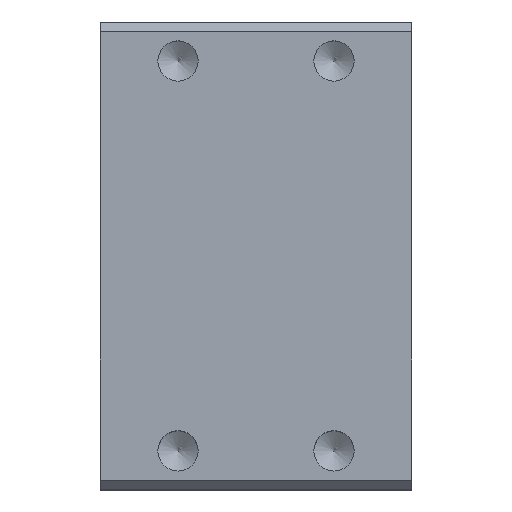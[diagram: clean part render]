
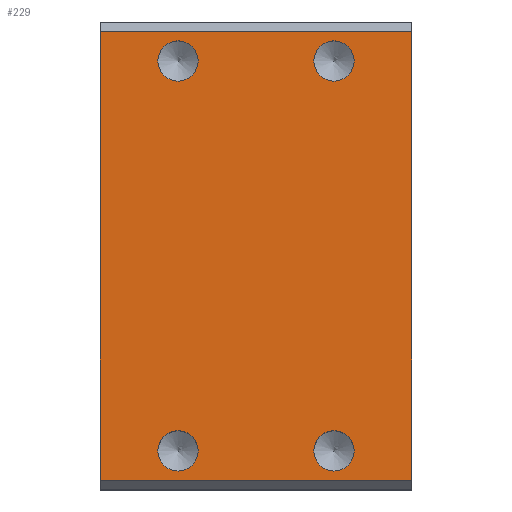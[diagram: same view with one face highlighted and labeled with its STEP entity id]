
A CAD part, top view. The second image highlights one B-rep face of the part: STEP entity #229.
In plain terms, the highlighted planar face has unit normal (0, 0, 1).
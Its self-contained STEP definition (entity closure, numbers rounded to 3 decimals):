
#120=CARTESIAN_POINT('',(32.0,23.,20.));
#121=VERTEX_POINT('',#120);
#138=CARTESIAN_POINT('',(0.0,23.,20.));
#139=VERTEX_POINT('',#138);
#146=CARTESIAN_POINT('',(0.0,23.,20.));
#147=DIRECTION('',(1.0,0.0,0.0));
#148=VECTOR('',#147,32.0);
#149=LINE('',#146,#148);
#150=EDGE_CURVE('',#139,#121,#149,.T.);
#155=CARTESIAN_POINT('',(0.0,-24.,20.));
#156=DIRECTION('',(0.0,0.0,1.0));
#157=DIRECTION('',(1.0,0.0,0.0));
#158=AXIS2_PLACEMENT_3D('',#155,#156,#157);
#159=PLANE('',#158);
#160=ORIENTED_EDGE('',*,*,#150,.F.);
#161=CARTESIAN_POINT('',(0.0,-23.,20.));
#162=VERTEX_POINT('',#161);
#163=CARTESIAN_POINT('',(0.0,23.,20.));
#164=DIRECTION('',(0.0,-1.0,0.0));
#165=VECTOR('',#164,46.);
#166=LINE('',#163,#165);
#167=EDGE_CURVE('',#139,#162,#166,.T.);
#168=ORIENTED_EDGE('',*,*,#167,.T.);
#169=CARTESIAN_POINT('',(32.0,-23.,20.));
#170=VERTEX_POINT('',#169);
#171=CARTESIAN_POINT('',(32.0,-23.,20.));
#172=DIRECTION('',(-1.0,0.0,0.0));
#173=VECTOR('',#172,32.0);
#174=LINE('',#171,#173);
#175=EDGE_CURVE('',#170,#162,#174,.T.);
#176=ORIENTED_EDGE('',*,*,#175,.F.);
#177=CARTESIAN_POINT('',(32.0,-23.,20.));
#178=DIRECTION('',(0.0,1.0,0.0));
#179=VECTOR('',#178,46.);
#180=LINE('',#177,#179);
#181=EDGE_CURVE('',#170,#121,#180,.T.);
#182=ORIENTED_EDGE('',*,*,#181,.T.);
#183=EDGE_LOOP('',(#160,#168,#176,#182));
#184=FACE_OUTER_BOUND('',#183,.T.);
#185=CARTESIAN_POINT('',(26.067,20.0,20.));
#186=VERTEX_POINT('',#185);
#187=CARTESIAN_POINT('',(24.,20.0,20.));
#188=DIRECTION('',(0.0,0.0,-1.0));
#189=DIRECTION('',(1.0,0.0,0.0));
#190=AXIS2_PLACEMENT_3D('',#187,#188,#189);
#191=CIRCLE('',#190,2.067);
#192=EDGE_CURVE('',#186,#186,#191,.T.);
#193=ORIENTED_EDGE('',*,*,#192,.T.);
#194=EDGE_LOOP('',(#193));
#195=FACE_BOUND('',#194,.T.);
#196=CARTESIAN_POINT('',(26.067,-20.0,20.));
#197=VERTEX_POINT('',#196);
#198=CARTESIAN_POINT('',(24.,-20.0,20.));
#199=DIRECTION('',(0.0,0.0,-1.0));
#200=DIRECTION('',(1.0,0.0,0.0));
#201=AXIS2_PLACEMENT_3D('',#198,#199,#200);
#202=CIRCLE('',#201,2.067);
#203=EDGE_CURVE('',#197,#197,#202,.T.);
#204=ORIENTED_EDGE('',*,*,#203,.T.);
#205=EDGE_LOOP('',(#204));
#206=FACE_BOUND('',#205,.T.);
#207=CARTESIAN_POINT('',(10.067,20.0,20.));
#208=VERTEX_POINT('',#207);
#209=CARTESIAN_POINT('',(8.,20.0,20.));
#210=DIRECTION('',(0.0,0.0,-1.0));
#211=DIRECTION('',(1.0,0.0,0.0));
#212=AXIS2_PLACEMENT_3D('',#209,#210,#211);
#213=CIRCLE('',#212,2.067);
#214=EDGE_CURVE('',#208,#208,#213,.T.);
#215=ORIENTED_EDGE('',*,*,#214,.T.);
#216=EDGE_LOOP('',(#215));
#217=FACE_BOUND('',#216,.T.);
#218=CARTESIAN_POINT('',(10.067,-20.0,20.));
#219=VERTEX_POINT('',#218);
#220=CARTESIAN_POINT('',(8.,-20.0,20.));
#221=DIRECTION('',(0.0,0.0,-1.0));
#222=DIRECTION('',(1.0,0.0,0.0));
#223=AXIS2_PLACEMENT_3D('',#220,#221,#222);
#224=CIRCLE('',#223,2.067);
#225=EDGE_CURVE('',#219,#219,#224,.T.);
#226=ORIENTED_EDGE('',*,*,#225,.T.);
#227=EDGE_LOOP('',(#226));
#228=FACE_BOUND('',#227,.T.);
#229=ADVANCED_FACE('',(#184,#195,#206,#217,#228),#159,.T.);
